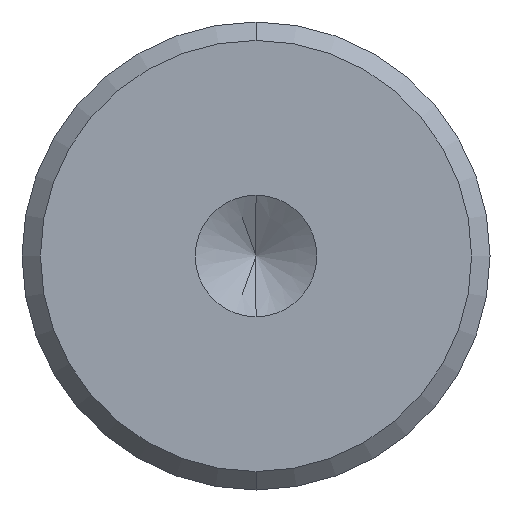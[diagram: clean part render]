
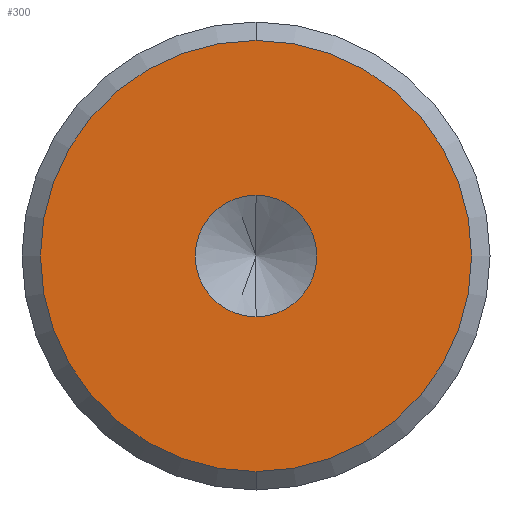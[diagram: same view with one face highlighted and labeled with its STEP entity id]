
A CAD part, front view. The second image highlights one B-rep face of the part: STEP entity #300.
In plain terms, the highlighted planar face has unit normal (0, -1, 0).
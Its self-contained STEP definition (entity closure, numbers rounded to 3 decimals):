
#13 = CIRCLE ( 'NONE', #483, 5.85 ) ;
#36 = AXIS2_PLACEMENT_3D ( 'NONE', #224, #326, #317 ) ;
#37 = DIRECTION ( 'NONE',  ( 0., 0., -1. ) ) ;
#39 = PLANE ( 'NONE',  #181 ) ;
#52 = CARTESIAN_POINT ( 'NONE',  ( 0., 0., -5.85 ) ) ;
#56 = DIRECTION ( 'NONE',  ( 0., -1., 0. ) ) ;
#92 = VERTEX_POINT ( 'NONE', #126 ) ;
#109 = ORIENTED_EDGE ( 'NONE', *, *, #158, .T. ) ;
#112 = EDGE_LOOP ( 'NONE', ( #109, #128 ) ) ;
#126 = CARTESIAN_POINT ( 'NONE',  ( 0., 0., -1.65 ) ) ;
#128 = ORIENTED_EDGE ( 'NONE', *, *, #279, .T. ) ;
#138 = CARTESIAN_POINT ( 'NONE',  ( 0., 0., 5.85 ) ) ;
#141 = CARTESIAN_POINT ( 'NONE',  ( 0., 0., 0. ) ) ;
#149 = AXIS2_PLACEMENT_3D ( 'NONE', #430, #56, #481 ) ;
#158 = EDGE_CURVE ( 'NONE', #423, #268, #173, .T. ) ;
#173 = CIRCLE ( 'NONE', #149, 5.85 ) ;
#181 = AXIS2_PLACEMENT_3D ( 'NONE', #278, #198, #192 ) ;
#183 = AXIS2_PLACEMENT_3D ( 'NONE', #498, #414, #37 ) ;
#192 = DIRECTION ( 'NONE',  ( 0., 0., 1. ) ) ;
#198 = DIRECTION ( 'NONE',  ( 0., 1., 0. ) ) ;
#224 = CARTESIAN_POINT ( 'NONE',  ( 0., 0., 0. ) ) ;
#234 = ORIENTED_EDGE ( 'NONE', *, *, #347, .F. ) ;
#241 = FACE_OUTER_BOUND ( 'NONE', #112, .T. ) ;
#268 = VERTEX_POINT ( 'NONE', #52 ) ;
#278 = CARTESIAN_POINT ( 'NONE',  ( 0., 0., 0. ) ) ;
#279 = EDGE_CURVE ( 'NONE', #268, #423, #13, .T. ) ;
#291 = ORIENTED_EDGE ( 'NONE', *, *, #465, .F. ) ;
#298 = DIRECTION ( 'NONE',  ( 0., 0., 1. ) ) ;
#300 = ADVANCED_FACE ( 'NONE', ( #472, #241 ), #39, .F. ) ;
#317 = DIRECTION ( 'NONE',  ( 0., 0., -1. ) ) ;
#326 = DIRECTION ( 'NONE',  ( 0., -1., 0. ) ) ;
#334 = CIRCLE ( 'NONE', #183, 1.65 ) ;
#347 = EDGE_CURVE ( 'NONE', #467, #92, #484, .T. ) ;
#413 = EDGE_LOOP ( 'NONE', ( #291, #234 ) ) ;
#414 = DIRECTION ( 'NONE',  ( 0., -1., 0. ) ) ;
#419 = CARTESIAN_POINT ( 'NONE',  ( 0., 0., 1.65 ) ) ;
#423 = VERTEX_POINT ( 'NONE', #138 ) ;
#430 = CARTESIAN_POINT ( 'NONE',  ( 0., 0., 0. ) ) ;
#465 = EDGE_CURVE ( 'NONE', #92, #467, #334, .T. ) ;
#467 = VERTEX_POINT ( 'NONE', #419 ) ;
#472 = FACE_BOUND ( 'NONE', #413, .T. ) ;
#481 = DIRECTION ( 'NONE',  ( 0., 0., 1. ) ) ;
#483 = AXIS2_PLACEMENT_3D ( 'NONE', #141, #492, #298 ) ;
#484 = CIRCLE ( 'NONE', #36, 1.65 ) ;
#492 = DIRECTION ( 'NONE',  ( 0., -1., 0. ) ) ;
#498 = CARTESIAN_POINT ( 'NONE',  ( 0., 0., 0. ) ) ;
